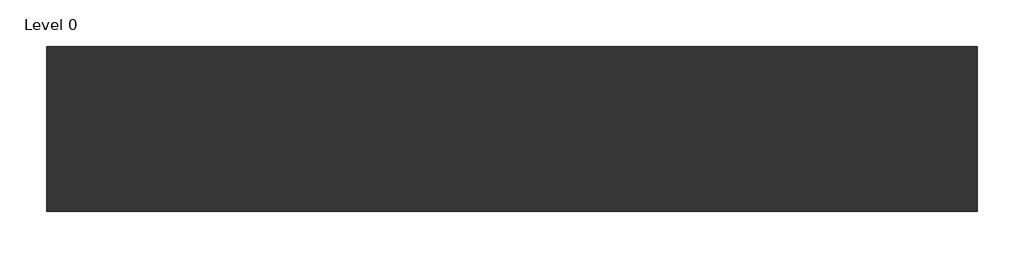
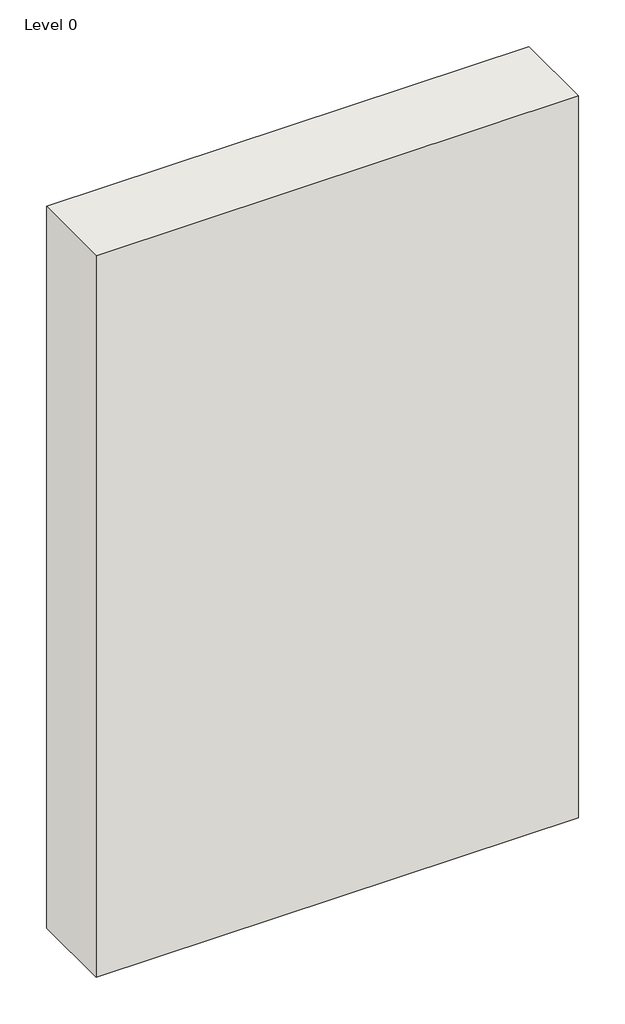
# One storey: 1 wall.
"""IFC4 building model written with IfcOpenShell, lengths in millimetres."""

from ifc_helpers import new_model, si_unit, origin, origin_with_axes, place, context, project, spatial, polyline, outline, extrude, element, save

model = new_model("IFC4")

# Units and contexts
model_context = context("Model", 3, world=origin())
ifc_project = project(units=[si_unit("LENGTHUNIT", "METRE", prefix="MILLI")], contexts=[model_context])

# Site, building, storey
site = spatial("IfcSite", under=ifc_project)
building = spatial("IfcBuilding", under=site)
storey = spatial("IfcBuildingStorey", under=building, Name="Level 0", Elevation=0.0)

# Wall
placement = place(None, origin())
element("IfcWall", 1, ObjectType="A326013(a) - GypWall Audio", at=placement, inside=storey, context=model_context, shape_type="SweptSolid", body=[
    extrude(outline(polyline([(1155.997948, 280.2669953), (-1944.002052, 280.2669953), (-1944.002052, 830.2669953), (1155.997948, 830.2669953), (1155.997948, 280.2669953)])), origin_with_axes(), (0.0, 0.0, 1.0), 4900.0),
])

save(model, "model.ifc")
